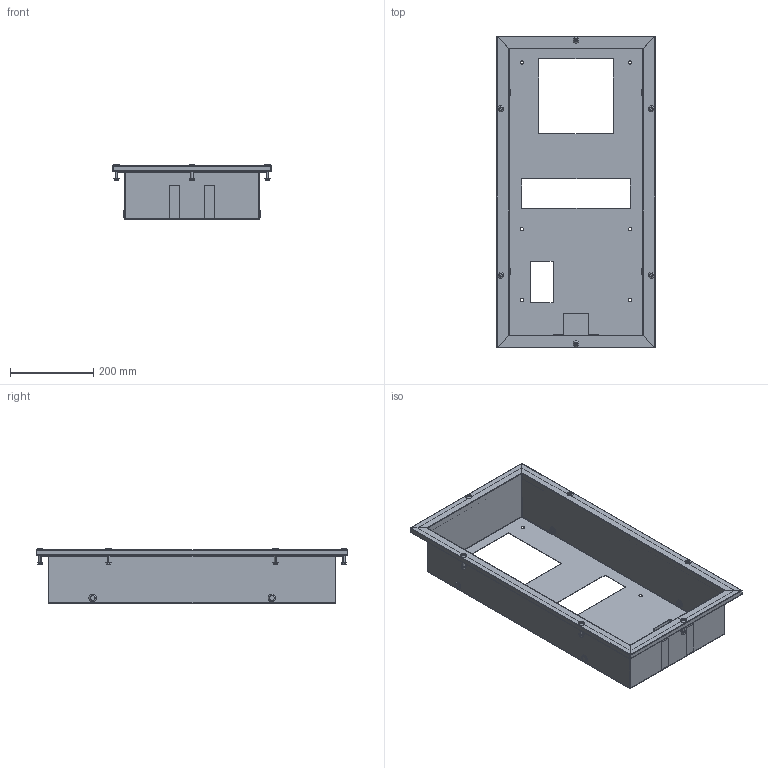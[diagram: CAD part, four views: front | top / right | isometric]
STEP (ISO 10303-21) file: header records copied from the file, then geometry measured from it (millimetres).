
FILE_DESCRIPTION (( 'STEP AP203' ), '1' );
FILE_NAME ('RAKLMCSI2.STEP', '2014-06-25T10:43:00', ( '' ), ( '' ), 'SwSTEP 2.0', 'SolidWorks 2014', '' );
FILE_SCHEMA (( 'CONFIG_CONTROL_DESIGN' ));
Length unit declared in the file: millimetre
Products named in the file (27): GOM-14; VIT-COMBI-M6X30-ZN; L00238; DADO-FLA-M6-ZN; RAKLMCSI2; 16x15H_G-RAKLMCSI2; DADO-FLA-M6-ZN_Hexagon Flange Nut DIN 6923 - M5 - N; L00232; 16x15H
Assembly tree (20 placements, depth 3):
  GOM-14
  VIT-COMBI-M6X30-ZN
  DADO-FLA-M6-ZN
  DADO-FLA-M6-ZN
  VIT-COMBI-M6X30-ZN
Bounding box: 381 x 748 x 132.5 mm (x, y, z)
Volume: 1030425.2 mm3; surface area: 1237180.2 mm2
Topology: 19 solids, 19 shells, 609 faces, 1385 edges, 838 vertices
Faces by surface type: plane 328, cylinder 133, bspline 60, cone 56, torus 32
Entity records: 13095 total; most frequent: CARTESIAN_POINT 3104, ORIENTED_EDGE 1526, DIRECTION 1481, EDGE_CURVE 763, LINE 511, VECTOR 511, AXIS2_PLACEMENT_3D 485, VERTEX_POINT 450
